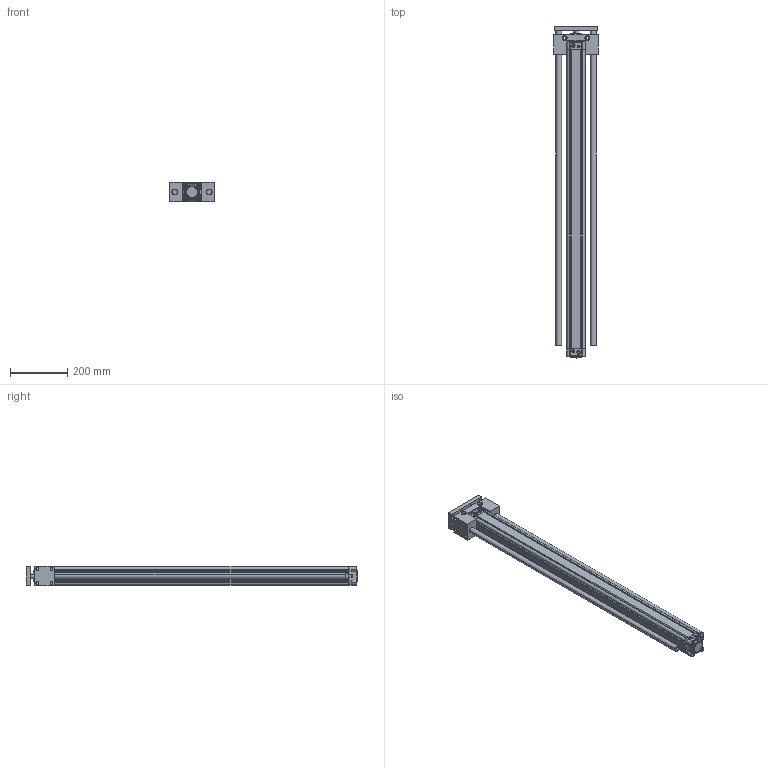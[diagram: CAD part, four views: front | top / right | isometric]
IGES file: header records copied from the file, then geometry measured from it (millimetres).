
Start section: SolidWorks IGES file using analytic representation for surfaces
Global section: file name: D:\ARICA 3D 禽Z軲LER\3D IGES\DNC-U\KDNC\50\KDNC50X1000-U-YATAK.IGS,1; native system: 5HSolidWorks 2013; preprocessor: SolidWorks 2013; author: user; date: 160908.082721; units: millimetre
Bounding box: 156 x 1162.5 x 68.5 mm (x, y, z)
Surface area: 1016196 mm2 (no closed solid volume)
Topology: 0 solids, 0 shells, 908 faces, 16768 edges, 16764 vertices
Faces by surface type: revolution 501, bspline 407
